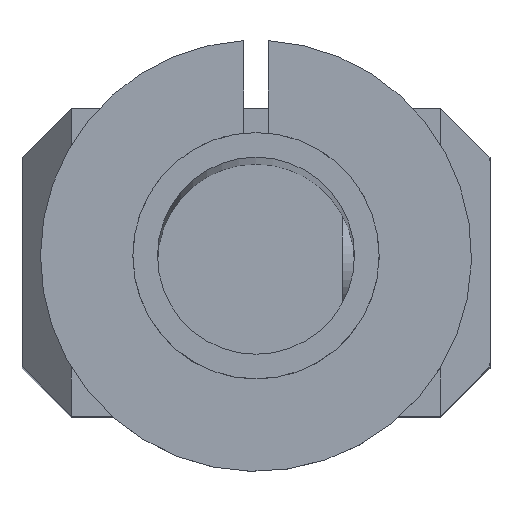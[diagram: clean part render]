
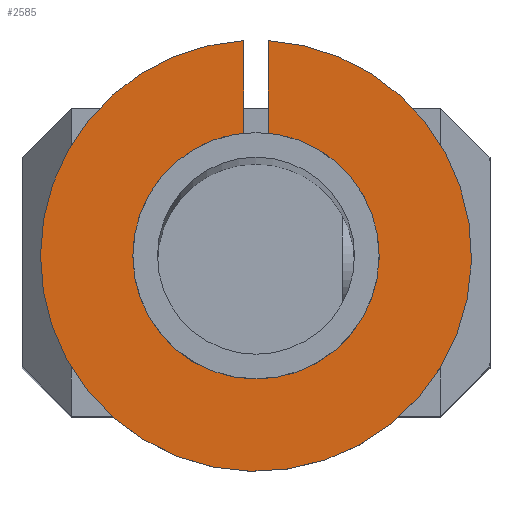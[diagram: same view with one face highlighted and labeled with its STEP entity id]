
A CAD part, top view. The second image highlights one B-rep face of the part: STEP entity #2585.
In plain terms, the highlighted planar face has unit normal (0, 0, 1).
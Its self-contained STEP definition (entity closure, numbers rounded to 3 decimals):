
#2360=CARTESIAN_POINT('Line Origine',(1.,13.711,345.)) ;
#2364=CARTESIAN_POINT('Vertex',(1.,9.95,345.)) ;
#2366=CARTESIAN_POINT('Vertex',(1.,17.471,345.)) ;
#2466=CARTESIAN_POINT('Vertex',(-1.,17.471,345.)) ;
#2469=CARTESIAN_POINT('Line Origine',(-1.,13.711,345.)) ;
#2473=CARTESIAN_POINT('Vertex',(-1.,9.95,345.)) ;
#2496=CARTESIAN_POINT('Axis2P3D Location',(0.,0.,345.)) ;
#2500=CARTESIAN_POINT('Vertex',(-8.776,-4.794,345.)) ;
#2524=CARTESIAN_POINT('Vertex',(8.776,4.794,345.)) ;
#2527=CARTESIAN_POINT('Axis2P3D Location',(0.,0.,345.)) ;
#2539=CARTESIAN_POINT('Axis2P3D Location',(0.,0.,345.)) ;
#2551=CARTESIAN_POINT('Axis2P3D Location',(-17.5,0.,345.)) ;
#2556=CARTESIAN_POINT('Axis2P3D Location',(0.,0.,345.)) ;
#2560=CARTESIAN_POINT('Vertex',(-15.358,-8.39,345.)) ;
#2563=CARTESIAN_POINT('Axis2P3D Location',(0.,0.,345.)) ;
#2567=CARTESIAN_POINT('Vertex',(15.358,8.39,345.)) ;
#2570=CARTESIAN_POINT('Axis2P3D Location',(0.,0.,345.)) ;
#2361=DIRECTION('Vector Direction',(0.,1.,0.)) ;
#2470=DIRECTION('Vector Direction',(0.,1.,0.)) ;
#2497=DIRECTION('Axis2P3D Direction',(0.,0.,1.)) ;
#2528=DIRECTION('Axis2P3D Direction',(0.,0.,1.)) ;
#2540=DIRECTION('Axis2P3D Direction',(0.,0.,1.)) ;
#2552=DIRECTION('Axis2P3D Direction',(0.,0.,1.)) ;
#2553=DIRECTION('Axis2P3D XDirection',(1.,0.,0.)) ;
#2557=DIRECTION('Axis2P3D Direction',(0.,0.,1.)) ;
#2564=DIRECTION('Axis2P3D Direction',(0.,0.,1.)) ;
#2571=DIRECTION('Axis2P3D Direction',(0.,0.,1.)) ;
#2498=AXIS2_PLACEMENT_3D('Circle Axis2P3D',#2496,#2497,$) ;
#2529=AXIS2_PLACEMENT_3D('Circle Axis2P3D',#2527,#2528,$) ;
#2541=AXIS2_PLACEMENT_3D('Circle Axis2P3D',#2539,#2540,$) ;
#2554=AXIS2_PLACEMENT_3D('Plane Axis2P3D',#2551,#2552,#2553) ;
#2558=AXIS2_PLACEMENT_3D('Circle Axis2P3D',#2556,#2557,$) ;
#2565=AXIS2_PLACEMENT_3D('Circle Axis2P3D',#2563,#2564,$) ;
#2572=AXIS2_PLACEMENT_3D('Circle Axis2P3D',#2570,#2571,$) ;
#2576=ORIENTED_EDGE('',*,*,#2562,.T.) ;
#2577=ORIENTED_EDGE('',*,*,#2569,.T.) ;
#2578=ORIENTED_EDGE('',*,*,#2574,.T.) ;
#2579=ORIENTED_EDGE('',*,*,#2368,.F.) ;
#2580=ORIENTED_EDGE('',*,*,#2543,.F.) ;
#2581=ORIENTED_EDGE('',*,*,#2531,.F.) ;
#2582=ORIENTED_EDGE('',*,*,#2502,.F.) ;
#2583=ORIENTED_EDGE('',*,*,#2475,.T.) ;
#2362=VECTOR('Line Direction',#2361,1.) ;
#2471=VECTOR('Line Direction',#2470,1.) ;
#2585=ADVANCED_FACE('BODY_POS04_Reduzirtung_30-20',(#2584),#2555,.T.) ;
#2499=CIRCLE('generated circle',#2498,10.) ;
#2530=CIRCLE('generated circle',#2529,10.) ;
#2542=CIRCLE('generated circle',#2541,10.) ;
#2559=CIRCLE('generated circle',#2558,17.5) ;
#2566=CIRCLE('generated circle',#2565,17.5) ;
#2573=CIRCLE('generated circle',#2572,17.5) ;
#2368=EDGE_CURVE('',#2365,#2367,#2363,.T.) ;
#2475=EDGE_CURVE('',#2474,#2467,#2472,.T.) ;
#2502=EDGE_CURVE('',#2474,#2501,#2499,.T.) ;
#2531=EDGE_CURVE('',#2501,#2525,#2530,.T.) ;
#2543=EDGE_CURVE('',#2525,#2365,#2542,.T.) ;
#2562=EDGE_CURVE('',#2467,#2561,#2559,.T.) ;
#2569=EDGE_CURVE('',#2561,#2568,#2566,.T.) ;
#2574=EDGE_CURVE('',#2568,#2367,#2573,.T.) ;
#2575=EDGE_LOOP('',(#2576,#2577,#2578,#2579,#2580,#2581,#2582,#2583)) ;
#2584=FACE_OUTER_BOUND('',#2575,.T.) ;
#2363=LINE('Line',#2360,#2362) ;
#2472=LINE('Line',#2469,#2471) ;
#2555=PLANE('Plane',#2554) ;
#2365=VERTEX_POINT('',#2364) ;
#2367=VERTEX_POINT('',#2366) ;
#2467=VERTEX_POINT('',#2466) ;
#2474=VERTEX_POINT('',#2473) ;
#2501=VERTEX_POINT('',#2500) ;
#2525=VERTEX_POINT('',#2524) ;
#2561=VERTEX_POINT('',#2560) ;
#2568=VERTEX_POINT('',#2567) ;
